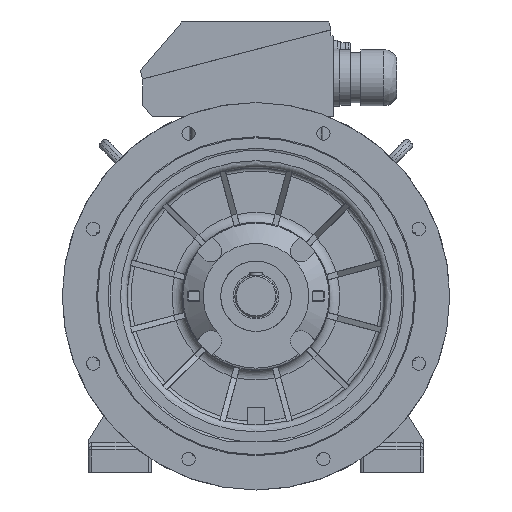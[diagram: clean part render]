
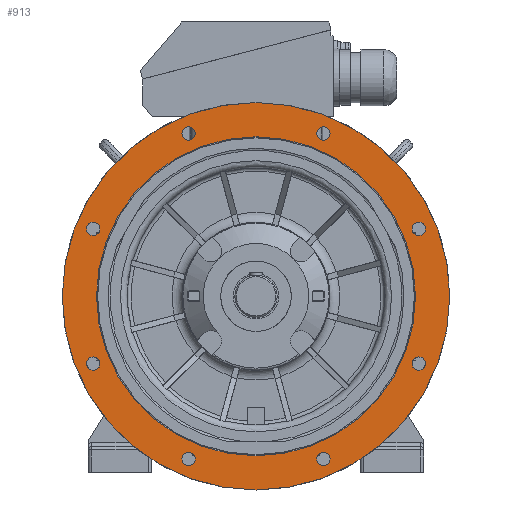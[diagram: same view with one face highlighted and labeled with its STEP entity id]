
A CAD part, front view. The second image highlights one B-rep face of the part: STEP entity #913.
In plain terms, the highlighted planar face has unit normal (0, -1, 0).
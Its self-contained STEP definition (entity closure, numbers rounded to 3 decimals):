
#913 = ADVANCED_FACE( '', ( #2967, #2968, #2969, #2970, #2971, #2972, #2973, #2974, #2975, #2976 ), #2977, .F. );
#2967 = FACE_OUTER_BOUND( '', #10488, .T. );
#2968 = FACE_BOUND( '', #10489, .T. );
#2969 = FACE_BOUND( '', #10490, .T. );
#2970 = FACE_BOUND( '', #10491, .T. );
#2971 = FACE_BOUND( '', #10492, .T. );
#2972 = FACE_BOUND( '', #10493, .T. );
#2973 = FACE_BOUND( '', #10494, .T. );
#2974 = FACE_BOUND( '', #10495, .T. );
#2975 = FACE_BOUND( '', #10496, .T. );
#2976 = FACE_BOUND( '', #10497, .T. );
#2977 = PLANE( '', #10498 );
#10488 = EDGE_LOOP( '', ( #19934 ) );
#10489 = EDGE_LOOP( '', ( #19935 ) );
#10490 = EDGE_LOOP( '', ( #19936 ) );
#10491 = EDGE_LOOP( '', ( #19937 ) );
#10492 = EDGE_LOOP( '', ( #19938 ) );
#10493 = EDGE_LOOP( '', ( #19939 ) );
#10494 = EDGE_LOOP( '', ( #19940 ) );
#10495 = EDGE_LOOP( '', ( #19941 ) );
#10496 = EDGE_LOOP( '', ( #19942 ) );
#10497 = EDGE_LOOP( '', ( #19943 ) );
#10498 = AXIS2_PLACEMENT_3D( '', #19944, #19945, #19946 );
#19934 = ORIENTED_EDGE( '', *, *, #26204, .T. );
#19935 = ORIENTED_EDGE( '', *, *, #26220, .F. );
#19936 = ORIENTED_EDGE( '', *, *, #26221, .F. );
#19937 = ORIENTED_EDGE( '', *, *, #26222, .F. );
#19938 = ORIENTED_EDGE( '', *, *, #26223, .F. );
#19939 = ORIENTED_EDGE( '', *, *, #26151, .F. );
#19940 = ORIENTED_EDGE( '', *, *, #26025, .F. );
#19941 = ORIENTED_EDGE( '', *, *, #25922, .F. );
#19942 = ORIENTED_EDGE( '', *, *, #25952, .F. );
#19943 = ORIENTED_EDGE( '', *, *, #26112, .F. );
#19944 = CARTESIAN_POINT( '', ( 226.4, -89.997, 0. ) );
#19945 = DIRECTION( '', ( 0., 1., 0. ) );
#19946 = DIRECTION( '', ( 1., 0., 0. ) );
#25922 = EDGE_CURVE( '', #30452, #30452, #30453, .T. );
#25952 = EDGE_CURVE( '', #30506, #30506, #30507, .T. );
#26025 = EDGE_CURVE( '', #30631, #30631, #30632, .T. );
#26112 = EDGE_CURVE( '', #30775, #30775, #30776, .T. );
#26151 = EDGE_CURVE( '', #30842, #30842, #30843, .T. );
#26204 = EDGE_CURVE( '', #30931, #30931, #30932, .T. );
#26220 = EDGE_CURVE( '', #30953, #30953, #30954, .T. );
#26221 = EDGE_CURVE( '', #30955, #30955, #30956, .T. );
#26222 = EDGE_CURVE( '', #30957, #30957, #30958, .T. );
#26223 = EDGE_CURVE( '', #30959, #30959, #30960, .T. );
#30452 = VERTEX_POINT( '', #40975 );
#30453 = CIRCLE( '', #40976, 9.5 );
#30506 = VERTEX_POINT( '', #41083 );
#30507 = CIRCLE( '', #41084, 9.5 );
#30631 = VERTEX_POINT( '', #41252 );
#30632 = CIRCLE( '', #41253, 9.5 );
#30775 = VERTEX_POINT( '', #41444 );
#30776 = CIRCLE( '', #41445, 9.5 );
#30842 = VERTEX_POINT( '', #41578 );
#30843 = CIRCLE( '', #41579, 9.5 );
#30931 = VERTEX_POINT( '', #41701 );
#30932 = CIRCLE( '', #41702, 275. );
#30953 = VERTEX_POINT( '', #41735 );
#30954 = CIRCLE( '', #41736, 226.4 );
#30955 = VERTEX_POINT( '', #41737 );
#30956 = CIRCLE( '', #41738, 9.5 );
#30957 = VERTEX_POINT( '', #41739 );
#30958 = CIRCLE( '', #41740, 9.5 );
#30959 = VERTEX_POINT( '', #41741 );
#30960 = CIRCLE( '', #41742, 9.5 );
#40975 = CARTESIAN_POINT( '', ( 95.671, -89.997, 240.47 ) );
#40976 = AXIS2_PLACEMENT_3D( '', #47751, #47752, #47753 );
#41083 = CARTESIAN_POINT( '', ( 230.97, -89.997, 105.171 ) );
#41084 = AXIS2_PLACEMENT_3D( '', #47803, #47804, #47805 );
#41252 = CARTESIAN_POINT( '', ( -95.671, -89.997, 240.47 ) );
#41253 = AXIS2_PLACEMENT_3D( '', #47934, #47935, #47936 );
#41444 = CARTESIAN_POINT( '', ( -230.97, -89.997, 105.171 ) );
#41445 = AXIS2_PLACEMENT_3D( '', #48099, #48100, #48101 );
#41578 = CARTESIAN_POINT( '', ( 230.97, -89.997, -86.171 ) );
#41579 = AXIS2_PLACEMENT_3D( '', #48173, #48174, #48175 );
#41701 = CARTESIAN_POINT( '', ( -275., -89.997, 0. ) );
#41702 = AXIS2_PLACEMENT_3D( '', #48264, #48265, #48266 );
#41735 = CARTESIAN_POINT( '', ( -226.4, -89.997, 0. ) );
#41736 = AXIS2_PLACEMENT_3D( '', #48288, #48289, #48290 );
#41737 = CARTESIAN_POINT( '', ( -230.97, -89.997, -86.171 ) );
#41738 = AXIS2_PLACEMENT_3D( '', #48291, #48292, #48293 );
#41739 = CARTESIAN_POINT( '', ( -95.671, -89.997, -221.47 ) );
#41740 = AXIS2_PLACEMENT_3D( '', #48294, #48295, #48296 );
#41741 = CARTESIAN_POINT( '', ( 95.671, -89.997, -221.47 ) );
#41742 = AXIS2_PLACEMENT_3D( '', #48297, #48298, #48299 );
#47751 = CARTESIAN_POINT( '', ( 95.671, -89.997, 230.97 ) );
#47752 = DIRECTION( '', ( 0., -1., 0. ) );
#47753 = DIRECTION( '', ( 0., 0., 1. ) );
#47803 = CARTESIAN_POINT( '', ( 230.97, -89.997, 95.671 ) );
#47804 = DIRECTION( '', ( 0., -1., 0. ) );
#47805 = DIRECTION( '', ( 0., 0., 1. ) );
#47934 = CARTESIAN_POINT( '', ( -95.671, -89.997, 230.97 ) );
#47935 = DIRECTION( '', ( 0., -1., 0. ) );
#47936 = DIRECTION( '', ( 0., 0., 1. ) );
#48099 = CARTESIAN_POINT( '', ( -230.97, -89.997, 95.671 ) );
#48100 = DIRECTION( '', ( 0., -1., 0. ) );
#48101 = DIRECTION( '', ( 0., 0., 1. ) );
#48173 = CARTESIAN_POINT( '', ( 230.97, -89.997, -95.671 ) );
#48174 = DIRECTION( '', ( 0., -1., 0. ) );
#48175 = DIRECTION( '', ( 0., 0., 1. ) );
#48264 = CARTESIAN_POINT( '', ( 0., -89.997, 0. ) );
#48265 = DIRECTION( '', ( 0., -1., 0. ) );
#48266 = DIRECTION( '', ( -1., 0., 0. ) );
#48288 = CARTESIAN_POINT( '', ( 0., -89.997, 0. ) );
#48289 = DIRECTION( '', ( 0., -1., 0. ) );
#48290 = DIRECTION( '', ( -1., 0., 0. ) );
#48291 = CARTESIAN_POINT( '', ( -230.97, -89.997, -95.671 ) );
#48292 = DIRECTION( '', ( 0., -1., 0. ) );
#48293 = DIRECTION( '', ( 0., 0., 1. ) );
#48294 = CARTESIAN_POINT( '', ( -95.671, -89.997, -230.97 ) );
#48295 = DIRECTION( '', ( 0., -1., 0. ) );
#48296 = DIRECTION( '', ( 0., 0., 1. ) );
#48297 = CARTESIAN_POINT( '', ( 95.671, -89.997, -230.97 ) );
#48298 = DIRECTION( '', ( 0., -1., 0. ) );
#48299 = DIRECTION( '', ( 0., 0., 1. ) );
